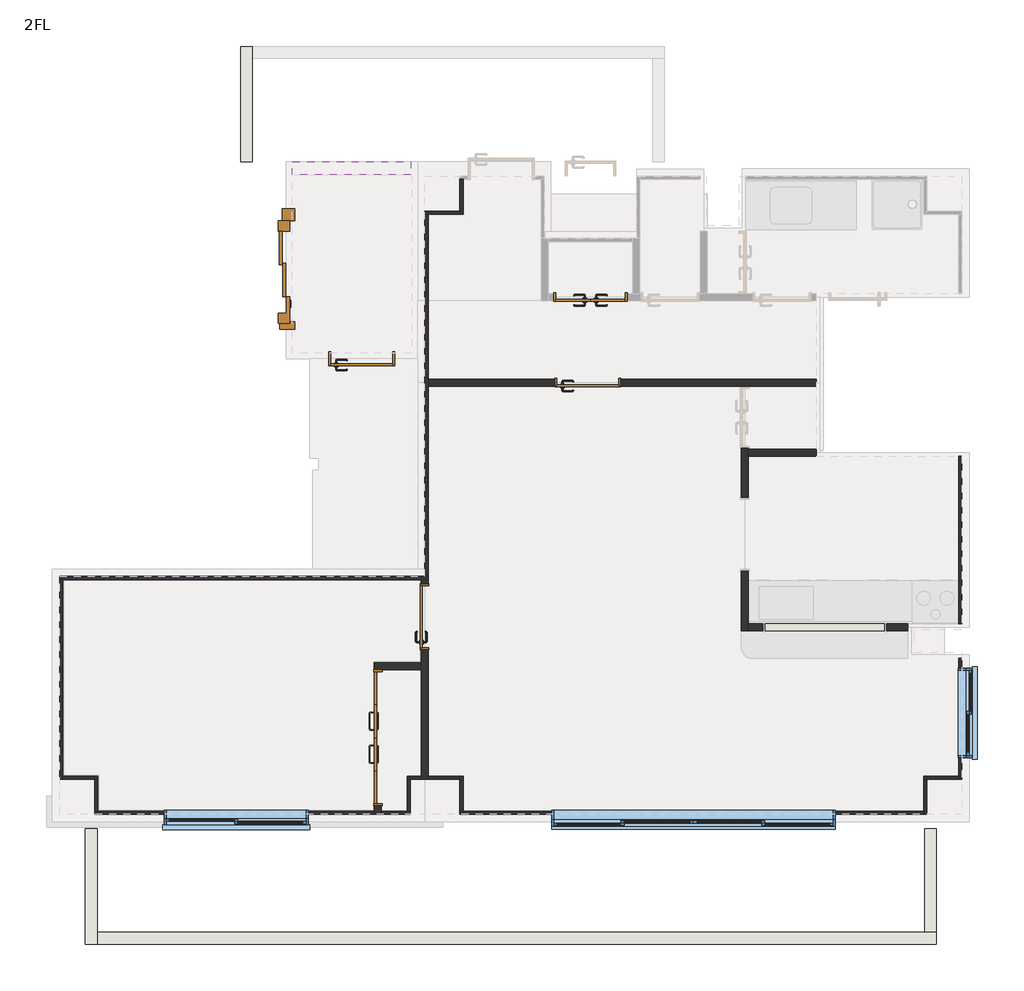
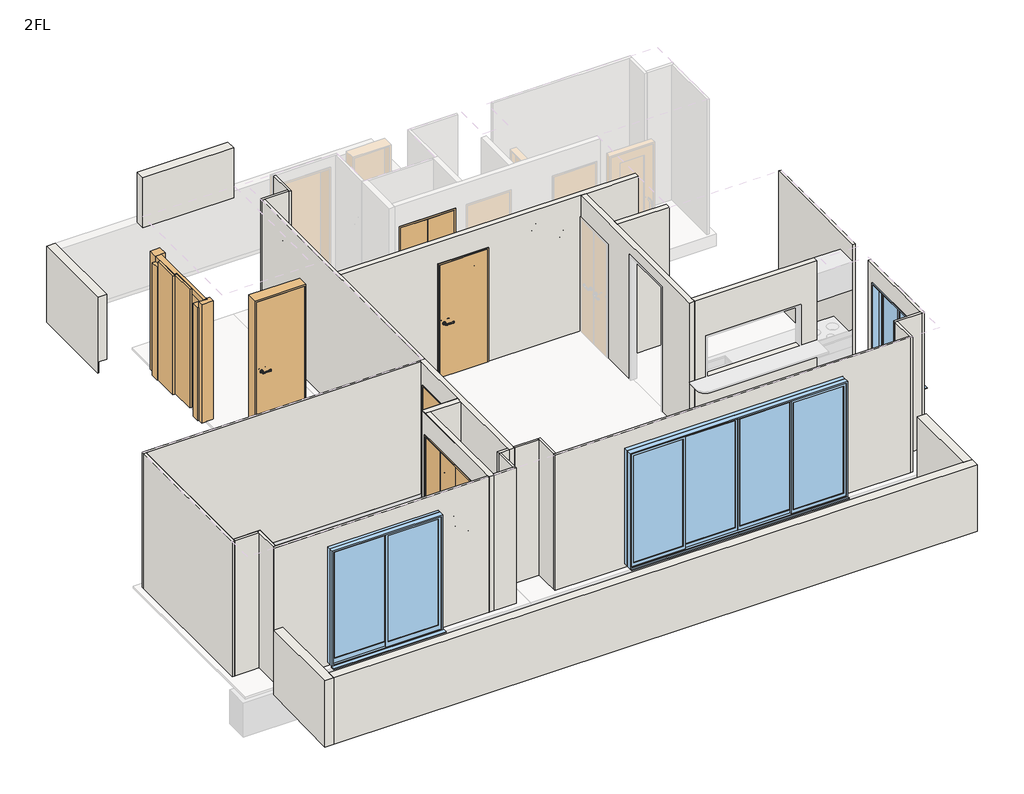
# One storey, part 1 of 2: 38 walls, 6 doors, 3 windows.
"""IFC4 building model written with IfcOpenShell, lengths in millimetres."""

from ifc_helpers import new_model, si_unit, frame, origin, place, context, project, spatial, polyline, outline, extrude, faceted_brep, transform, mapped, element, save
from components import door_6b3f1a68, w750h2000_bb28a540, w900h2000_3836acd8, w1700h2000_548ce087, w800h2000_55112f04, w800h2000_ceb0a9b1, w800h2200_4894828d, w1100h1200_8d7c9efa, w1800h2000_a859420f, w3600_h2000_fd93b6f9

model = new_model("IFC4")

# Units and contexts
model_context = context("Model", 3, world=origin())
ifc_project = project(units=[si_unit("LENGTHUNIT", "METRE", prefix="MILLI")], contexts=[model_context])

# Site, building, storey
site = spatial("IfcSite", under=ifc_project)
building = spatial("IfcBuilding", under=site)
storey = spatial("IfcBuildingStorey", under=building, Name="2FL", Elevation=3155.0)

# Doors
placement = place(None, origin())
door_shape = door_6b3f1a68(model_context)
element("IfcDoor", 1, ObjectType="エレベータ住宅用ドア - トランク付 : 9 人乗", at=placement, inside=storey, context=model_context, shape_type="MappedRepresentation", body=[
    mapped(door_shape, transform((-699.2658988, 2143.6001516, 3155.0), x_axis=(0.0, 1.0, 0.0), y_axis=(-1.0, 0.0, 0.0), z_axis=(0.0, 0.0, 1.0))),
])
w750h2000_shape = w750h2000_bb28a540(model_context)
w900h2000_shape = w900h2000_3836acd8(model_context)
element("IfcDoor", 2, ObjectType="両開き : W900H2000", at=placement, inside=storey, context=model_context, shape_type="MappedRepresentation", body=[
    mapped(w750h2000_shape, transform((3218.2341012, 1823.6001516, 3155.0), x_axis=(-1.0, 0.0, 0.0), y_axis=(0.0, -1.0, 0.0), z_axis=(0.0, 0.0, 1.0))),
    mapped(w900h2000_shape, transform((3218.2341012, 1823.6001516, 3155.0), x_axis=(-1.0, 0.0, 0.0), y_axis=(0.0, -1.0, 0.0), z_axis=(0.0, 0.0, 1.0))),
])
w1700h2000_shape = w1700h2000_548ce087(model_context)
element("IfcDoor", 3, ObjectType="木製折戸 : w1700h2000", at=placement, inside=storey, context=model_context, shape_type="MappedRepresentation", body=[
    mapped(w1700h2000_shape, transform((483.2341012, -3846.3998484, 3155.0), x_axis=(0.0, 1.0, 0.0), y_axis=(-1.0, 0.0, 0.0), z_axis=(0.0, 0.0, 1.0))),
])
w800h2000_shape = w800h2000_55112f04(model_context)
element("IfcDoor", 4, ObjectType="片開き : w800h2000", at=placement, inside=storey, context=model_context, shape_type="MappedRepresentation", body=[
    mapped(w800h2000_shape, transform((3183.2341012, 723.6001516, 3155.0), x_axis=(1.0, 0.0, 0.0), y_axis=(0.0, 1.0, 0.0), z_axis=(0.0, 0.0, 1.0))),
])
w800h2000_2_shape = w800h2000_ceb0a9b1(model_context)
element("IfcDoor", 5, ObjectType="片開き : w800h2000", at=placement, inside=storey, context=model_context, shape_type="MappedRepresentation", body=[
    mapped(w800h2000_2_shape, transform((1083.2341012, -2291.3998484, 3155.0), x_axis=(0.0, 1.0, 0.0), y_axis=(-1.0, 0.0, 0.0), z_axis=(0.0, 0.0, 1.0))),
])
w800h2200_shape = w800h2200_4894828d(model_context)
element("IfcDoor", 6, ObjectType="片開き : w800h2200", at=placement, inside=storey, context=model_context, shape_type="MappedRepresentation", body=[
    mapped(w800h2200_shape, transform((273.2341012, 1031.1001516, 3155.0), x_axis=(1.0, 0.0, 0.0), y_axis=(0.0, 1.0, 0.0), z_axis=(0.0, 0.0, 1.0))),
])

# Walls
element("IfcWall", 7, ObjectType="標準-12.5mm+65ｍｍ+12.5mm", at=placement, inside=storey, context=model_context, shape_type="Brep", body=[
    faceted_brep([(5248.2341012, -2471.3998484, 3155.0), (7298.2341012, -2471.3998484, 3155.0), (7298.2341012, -2471.3998484, 5555.0), (5248.2341012, -2471.3998484, 5555.0), (7033.2341012, -2471.3998484, 4880.0), (7033.2341012, -2471.3998484, 4155.0), (5433.2341012, -2471.3998484, 4155.0), (5433.2341012, -2471.3998484, 4880.0), (7298.2341012, -2381.3998484, 3155.0), (5248.2341012, -2381.3998484, 3155.0), (5248.2341012, -2381.3998484, 5555.0), (7298.2341012, -2381.3998484, 5555.0), (7033.2341012, -2381.3998484, 4155.0), (7033.2341012, -2381.3998484, 4880.0), (5433.2341012, -2381.3998484, 4880.0), (5433.2341012, -2381.3998484, 4155.0), (7298.2341012, -2458.8998484, 5555.0)], [[[0, 1, 2, 3], [4, 5, 6, 7]], [[8, 9, 10, 11], [12, 13, 14, 15]], [[1, 0, 9, 8]], [[3, 2, 16, 11, 10]], [[0, 3, 10, 9]], [[4, 13, 12, 5]], [[5, 12, 15, 6]], [[6, 15, 14, 7]], [[13, 4, 7, 14]], [[2, 1, 8, 11, 16]]]),
])
element("IfcWall", 8, ObjectType="標準-12.5mm+65ｍｍ+12.5mm", at=placement, inside=storey, context=model_context, shape_type="Brep", body=[
    faceted_brep([(1128.2341012, -1771.3998484, 3155.0), (1128.2341012, -1771.3998484, 5555.0), (1128.2341012, -4341.3998484, 5555.0), (1128.2341012, -4381.3998484, 5555.0), (1128.2341012, -4381.3998484, 3155.0), (1128.2341012, -4341.3998484, 3155.0), (1128.2341012, -2716.3998484, 3155.0), (1128.2341012, -2716.3998484, 5180.0), (1128.2341012, -1866.3998484, 5180.0), (1128.2341012, -1866.3998484, 3155.0), (1038.2341012, -1771.3998484, 5555.0), (1038.2341012, -1771.3998484, 3155.0), (1038.2341012, -1811.3998484, 3155.0), (1038.2341012, -1866.3998484, 3155.0), (1038.2341012, -1866.3998484, 3215.0), (1038.2341012, -1866.3998484, 5180.0), (1038.2341012, -2716.3998484, 5180.0), (1038.2341012, -2716.3998484, 3215.0), (1038.2341012, -2716.3998484, 3155.0), (1038.2341012, -2881.3998484, 3155.0), (1038.2341012, -2971.3998484, 3155.0), (1038.2341012, -4341.3998484, 3155.0), (1038.2341012, -4381.3998484, 3155.0), (1038.2341012, -4381.3998484, 5555.0), (1038.2341012, -4341.3998484, 5555.0), (1038.2341012, -2971.3998484, 5555.0), (1038.2341012, -2881.3998484, 5555.0), (1038.2341012, -1812.1998484, 5555.0), (1038.2341012, -1811.3998484, 5555.0), (1088.2341012, -1771.3998484, 3155.0), (1115.7341012, -1771.3998484, 3155.0), (1088.2341012, -1771.3998484, 5555.0)], [[[0, 1, 2, 3, 4, 5, 6, 7, 8, 9]], [[10, 11, 12, 13, 14, 15, 16, 17, 18, 19, 20, 21, 22, 23, 24, 25, 26, 27, 28]], [[4, 22, 21, 20, 19, 18, 6, 5]], [[11, 29, 30, 0, 9, 13, 12]], [[1, 0, 30, 29, 11, 10, 31]], [[3, 2, 1, 31, 10, 28, 27, 26, 25, 24, 23]], [[4, 3, 23, 22]], [[16, 7, 6, 18, 17]], [[7, 16, 15, 8]], [[8, 15, 14, 13, 9]]]),
])
element("IfcWall", 9, ObjectType="標準-12.5mm+65ｍｍ+12.5mm", at=placement, inside=storey, context=model_context, shape_type="Brep", body=[
    faceted_brep([(1038.2341012, -2881.3998484, 3155.0), (438.2341012, -2881.3998484, 3155.0), (438.2341012, -2881.3998484, 3215.0), (438.2341012, -2881.3998484, 5555.0), (1038.2341012, -2881.3998484, 5555.0), (1038.2341012, -2881.3998484, 3215.0), (438.2341012, -2971.3998484, 3155.0), (1038.2341012, -2971.3998484, 3155.0), (1038.2341012, -2971.3998484, 5555.0), (528.2341012, -2971.3998484, 5555.0), (438.2341012, -2971.3998484, 5555.0), (438.2341012, -2971.3998484, 5180.0), (438.2341012, -2971.3998484, 3215.0)], [[[0, 1, 2, 3, 4, 5]], [[6, 7, 8, 9, 10, 11, 12]], [[1, 0, 7, 6]], [[4, 3, 10, 9, 8]], [[4, 8, 7, 0, 5]], [[1, 6, 12, 11, 10, 3, 2]]]),
])
element("IfcWall", 10, ObjectType="標準-12.5mm+65ｍｍ+12.5mm", at=placement, inside=storey, context=model_context, shape_type="Brep", body=[
    faceted_brep([(438.2341012, -4831.3998484, 3155.0), (438.2341012, -4831.3998484, 5555.0), (438.2341012, -4791.3998484, 5555.0), (438.2341012, -2971.3998484, 5555.0), (438.2341012, -2971.3998484, 5180.0), (438.2341012, -4721.3998484, 5180.0), (438.2341012, -4721.3998484, 3215.0), (438.2341012, -4721.3998484, 3155.0), (438.2341012, -4791.3998484, 3155.0), (528.2341012, -4831.3998484, 5555.0), (528.2341012, -4831.3998484, 3155.0), (528.2341012, -4791.3998484, 3155.0), (528.2341012, -4721.3998484, 3155.0), (528.2341012, -4721.3998484, 5180.0), (528.2341012, -2971.3998484, 5180.0), (528.2341012, -2971.3998484, 5555.0), (528.2341012, -4791.3998484, 5555.0)], [[[0, 1, 2, 3, 4, 5, 6, 7, 8]], [[9, 10, 11, 12, 13, 14, 15, 16]], [[10, 0, 8, 7, 12, 11]], [[1, 0, 10, 9]], [[3, 2, 1, 9, 16, 15]], [[3, 15, 14, 4]], [[5, 13, 12, 7, 6]], [[13, 5, 4, 14]]]),
])
element("IfcWall", 11, ObjectType="標準-12.5mm+65ｍｍ+12.5mm", at=placement, inside=storey, context=model_context, shape_type="SweptSolid", body=[
    extrude(outline(polyline([(6123.2341012, -221.3998484), (5248.2341012, -221.3998484), (5248.2341012, -131.3998484), (6123.2341012, -131.3998484), (6123.2341012, -221.3998484)])), frame((0.0, 0.0, 3155.0), z_axis=(0.0, 0.0, 1.0), x_axis=(1.0, 0.0, 0.0)), (0.0, 0.0, 1.0), 2400.0),
])
element("IfcWall", 12, ObjectType="標準-12.5mm+65ｍｍ+12.5mm", at=placement, inside=storey, context=model_context, shape_type="Brep", body=[
    faceted_brep([(6123.2341012, 768.6001516, 5555.0), (6123.2341012, 768.6001516, 3155.0), (3608.2341012, 768.6001516, 3155.0), (3608.2341012, 768.6001516, 5180.0), (2758.2341012, 768.6001516, 5180.0), (2758.2341012, 768.6001516, 3155.0), (1128.2341012, 768.6001516, 3155.0), (1128.2341012, 768.6001516, 5555.0), (6123.2341012, 678.6001516, 3155.0), (6123.2341012, 678.6001516, 5555.0), (5248.2341012, 678.6001516, 5555.0), (5158.2341012, 678.6001516, 5555.0), (1128.2341012, 678.6001516, 5555.0), (1128.2341012, 678.6001516, 3155.0), (2758.2341012, 678.6001516, 3155.0), (2758.2341012, 678.6001516, 5180.0), (3608.2341012, 678.6001516, 5180.0), (3608.2341012, 678.6001516, 3155.0), (6123.2341012, 723.6001516, 3155.0)], [[[0, 1, 2, 3, 4, 5, 6, 7]], [[8, 9, 10, 11, 12, 13, 14, 15, 16, 17]], [[1, 18, 8, 17, 2]], [[5, 14, 13, 6]], [[9, 0, 7, 12, 11, 10]], [[1, 0, 9, 8, 18]], [[17, 16, 3, 2]], [[15, 14, 5, 4]], [[16, 15, 4, 3]], [[7, 6, 13, 12]]]),
])
element("IfcWall", 13, ObjectType="標準-12.5mm+65ｍｍ+12.5mm", at=placement, inside=storey, context=model_context, shape_type="Brep", body=[
    faceted_brep([(5158.2341012, -121.3998484, 3155.0), (5158.2341012, -751.3998484, 3155.0), (5158.2341012, -751.3998484, 5380.0), (5158.2341012, -1701.3998484, 5380.0), (5158.2341012, -1701.3998484, 3155.0), (5158.2341012, -2471.3998484, 3155.0), (5158.2341012, -2471.3998484, 5555.0), (5158.2341012, 678.6001516, 5555.0), (5158.2341012, 678.6001516, 5180.0), (5158.2341012, -121.3998484, 5180.0), (5248.2341012, -751.3998484, 5380.0), (5248.2341012, -751.3998484, 3155.0), (5248.2341012, -221.3998484, 3155.0), (5248.2341012, -131.3998484, 3155.0), (5248.2341012, -121.3998484, 3155.0), (5248.2341012, -121.3998484, 5180.0), (5248.2341012, 678.6001516, 5180.0), (5248.2341012, 678.6001516, 5555.0), (5248.2341012, -131.3998484, 5555.0), (5248.2341012, -221.3998484, 5555.0), (5248.2341012, -2381.3998484, 5555.0), (5248.2341012, -2471.3998484, 5555.0), (5248.2341012, -2471.3998484, 3155.0), (5248.2341012, -2381.3998484, 3155.0), (5248.2341012, -1701.3998484, 3155.0), (5248.2341012, -1701.3998484, 5380.0)], [[[0, 1, 2, 3, 4, 5, 6, 7, 8, 9]], [[10, 11, 12, 13, 14, 15, 16, 17, 18, 19, 20, 21, 22, 23, 24, 25]], [[24, 23, 22, 5, 4]], [[14, 13, 12, 11, 1, 0]], [[7, 6, 21, 20, 19, 18, 17]], [[6, 5, 22, 21]], [[7, 17, 16, 8]], [[4, 3, 25, 24]], [[2, 1, 11, 10]], [[3, 2, 10, 25]], [[9, 15, 14, 0]], [[15, 9, 8, 16]]]),
])
element("IfcWall", 14, ObjectType="標準-120mm+15mm+15mm", at=placement, inside=storey, context=model_context, shape_type="Brep", body=[
    faceted_brep([(-1281.7658988, 5048.6001516, 2910.0), (-1281.7658988, 3563.6001516, 2910.0), (-1281.7658988, 3563.6001516, 4255.0), (-1281.7658988, 5048.6001516, 4255.0), (-1131.7658988, 5048.6001516, 4255.0), (-1131.7658988, 4898.6001516, 4255.0), (-1131.7658988, 3563.6001516, 4255.0), (-1131.7658988, 3563.6001516, 3105.0), (-1131.7658988, 4898.6001516, 3077.755102), (-1131.7658988, 5033.6001516, 3075.0), (-1131.7658988, 5033.6001516, 2910.0), (-1131.7658988, 5048.6001516, 2910.0), (-1266.7658988, 5033.6001516, 2910.0), (-1266.7658988, 3563.6001516, 2910.0), (-1266.7658988, 3563.6001516, 3105.0), (-1266.7658988, 5033.6001516, 3075.0)], [[[0, 1, 2, 3]], [[4, 5, 6, 7, 8, 9, 10, 11]], [[1, 0, 11, 10, 12, 13]], [[3, 2, 6, 5, 4]], [[0, 3, 4, 11]], [[6, 2, 1, 13, 14, 7]], [[15, 14, 13, 12]], [[15, 12, 10, 9]], [[14, 15, 9, 8, 7]]]),
])
element("IfcWall", 15, ObjectType="標準-120mm+15mm+15mm", at=placement, inside=storey, context=model_context, shape_type="Brep", body=[
    faceted_brep([(-3281.7658988, -6501.3998484, 4255.0), (-3281.7658988, -5016.3998484, 4255.0), (-3281.7658988, -5016.3998484, 3105.0), (-3281.7658988, -6501.3998484, 3075.0), (-3131.7658988, -5016.3998484, 4255.0), (-3131.7658988, -6351.3998484, 4255.0), (-3131.7658988, -6501.3998484, 4255.0), (-3131.7658988, -6501.3998484, 3075.0), (-3131.7658988, -6351.3998484, 3078.030303), (-3131.7658988, -5016.3998484, 3105.0)], [[[0, 1, 2, 3]], [[4, 5, 6, 7, 8, 9]], [[1, 0, 6, 5, 4]], [[6, 0, 3, 7]], [[3, 2, 9, 8, 7]], [[1, 4, 9, 2]]]),
])
element("IfcWall", 16, ObjectType="標準-120mm+15mm+15mm", at=placement, inside=storey, context=model_context, shape_type="Brep", body=[
    faceted_brep([(7668.2341012, -6501.3998484, 4255.0), (-3131.7658988, -6501.3998484, 4255.0), (-3131.7658988, -6501.3998484, 3075.0), (7668.2341012, -6501.3998484, 3075.0), (-3131.7658988, -6351.3998484, 4255.0), (7518.2341012, -6351.3998484, 4255.0), (7668.2341012, -6351.3998484, 4255.0), (7668.2341012, -6351.3998484, 3078.030303), (7518.2341012, -6351.3998484, 3078.030303), (-3131.7658988, -6351.3998484, 3078.030303)], [[[0, 1, 2, 3]], [[4, 5, 6, 7, 8, 9]], [[1, 0, 6, 5, 4]], [[1, 4, 9, 2]], [[6, 0, 3, 7]], [[3, 2, 9, 8, 7]]]),
])
element("IfcWall", 17, ObjectType="標準-120mm+15mm+15mm", at=placement, inside=storey, context=model_context, shape_type="Brep", body=[
    faceted_brep([(7668.2341012, -5016.3998484, 4255.0), (7668.2341012, -6351.3998484, 4255.0), (7668.2341012, -6351.3998484, 3078.030303), (7668.2341012, -5016.3998484, 3105.0), (7518.2341012, -6351.3998484, 4255.0), (7518.2341012, -5016.3998484, 4255.0), (7518.2341012, -5016.3998484, 3120.0), (7518.2341012, -5016.3998484, 3105.0), (7518.2341012, -6351.3998484, 3078.030303)], [[[0, 1, 2, 3]], [[4, 5, 6, 7, 8]], [[1, 0, 5, 4]], [[1, 4, 8, 2]], [[5, 0, 3, 7, 6]], [[3, 2, 8, 7]]]),
])
element("IfcWall", 18, ObjectType="外壁-150mm+15mm", at=placement, inside=storey, context=model_context, shape_type="SweptSolid", body=[
    extrude(outline(polyline([(903.2341012, 3398.6001516), (-616.7658988, 3398.6001516), (-616.7658988, 3563.6001516), (903.2341012, 3563.6001516), (903.2341012, 3398.6001516)])), frame((0.0, 0.0, 5355.0), z_axis=(0.0, 0.0, 1.0), x_axis=(1.0, 0.0, 0.0)), (0.0, 0.0, 1.0), 885.0),
])
element("IfcWall", 19, ObjectType="内壁-27.5mm+12.5", at=placement, inside=storey, context=model_context, shape_type="Brep", body=[
    faceted_brep([(-3611.7658988, -1811.3998484, 3155.0), (-3571.7658988, -1811.3998484, 3155.0), (1038.2341012, -1811.3998484, 3155.0), (1038.2341012, -1811.3998484, 5555.0), (-3571.7658988, -1811.3998484, 5555.0), (-3611.7658988, -1811.3998484, 5555.0), (-3611.7658988, -1771.3998484, 3155.0), (-3611.7658988, -1771.3998484, 5555.0), (1038.2341012, -1771.3998484, 5555.0), (1038.2341012, -1771.3998484, 3155.0), (-3611.7658988, -1798.8998484, 3155.0), (1038.2341012, -1798.8998484, 3155.0)], [[[0, 1, 2, 3, 4, 5]], [[6, 7, 8, 9]], [[5, 4, 3, 8, 7]], [[2, 1, 0, 10, 11]], [[3, 2, 11, 9, 8]], [[0, 5, 7, 6, 10]], [[10, 6, 9, 11]]]),
])
element("IfcWall", 20, ObjectType="内壁-27.5mm+12.5", at=placement, inside=storey, context=model_context, shape_type="Brep", body=[
    faceted_brep([(-3571.7658988, -4381.3998484, 3155.0), (-3571.7658988, -4341.3998484, 3155.0), (-3571.7658988, -1811.3998484, 3155.0), (-3571.7658988, -1811.3998484, 5555.0), (-3571.7658988, -4341.3998484, 5555.0), (-3571.7658988, -4381.3998484, 5555.0), (-3611.7658988, -4381.3998484, 3155.0), (-3611.7658988, -4381.3998484, 5555.0), (-3611.7658988, -1811.3998484, 5555.0), (-3611.7658988, -1811.3998484, 3155.0), (-3584.2658988, -4381.3998484, 3155.0), (-3584.2658988, -1811.3998484, 3155.0)], [[[0, 1, 2, 3, 4, 5]], [[6, 7, 8, 9]], [[5, 4, 3, 8, 7]], [[2, 1, 0, 10, 11]], [[3, 2, 11, 9, 8]], [[0, 5, 7, 6, 10]], [[10, 6, 9, 11]]]),
])
element("IfcWall", 21, ObjectType="内壁-27.5mm+12.5", at=placement, inside=storey, context=model_context, shape_type="Brep", body=[
    faceted_brep([(438.2341012, -4791.3998484, 3155.0), (-3121.7658988, -4791.3998484, 3155.0), (-3161.7658988, -4791.3998484, 3155.0), (-3161.7658988, -4791.3998484, 5555.0), (-3121.7658988, -4791.3998484, 5555.0), (437.4341012, -4791.3998484, 5555.0), (438.2341012, -4791.3998484, 5555.0), (-2266.7658988, -4791.3998484, 5265.0), (-2266.7658988, -4791.3998484, 3215.0), (-416.7658988, -4791.3998484, 3215.0), (-416.7658988, -4791.3998484, 5265.0), (438.2341012, -4831.3998484, 3155.0), (438.2341012, -4831.3998484, 5555.0), (-3161.7658988, -4831.3998484, 5555.0), (-3161.7658988, -4831.3998484, 3155.0), (-2266.7658988, -4831.3998484, 5265.0), (-416.7658988, -4831.3998484, 5265.0), (-416.7658988, -4831.3998484, 3215.0), (-2266.7658988, -4831.3998484, 3215.0), (438.2341012, -4803.8998484, 3155.0), (-3161.7658988, -4803.8998484, 3155.0)], [[[0, 1, 2, 3, 4, 5, 6], [7, 8, 9, 10]], [[11, 12, 13, 14], [15, 16, 17, 18]], [[6, 5, 4, 3, 13, 12]], [[2, 1, 0, 19, 20]], [[0, 6, 12, 11, 19]], [[19, 11, 14, 20]], [[8, 7, 15, 18]], [[9, 8, 18, 17]], [[10, 9, 17, 16]], [[7, 10, 16, 15]], [[3, 2, 20, 14, 13]]]),
])
element("IfcWall", 22, ObjectType="内壁-27.5mm+12.5", at=placement, inside=storey, context=model_context, shape_type="Brep", body=[
    faceted_brep([(898.2341012, -4791.3998484, 3155.0), (858.2341012, -4791.3998484, 3155.0), (528.2341012, -4791.3998484, 3155.0), (528.2341012, -4791.3998484, 5555.0), (858.2341012, -4791.3998484, 5555.0), (898.2341012, -4791.3998484, 5555.0), (898.2341012, -4831.3998484, 3155.0), (898.2341012, -4831.3998484, 5555.0), (528.2341012, -4831.3998484, 5555.0), (528.2341012, -4831.3998484, 3155.0), (898.2341012, -4803.8998484, 3155.0), (528.2341012, -4803.8998484, 3155.0)], [[[0, 1, 2, 3, 4, 5]], [[6, 7, 8, 9]], [[5, 4, 3, 8, 7]], [[2, 1, 0, 10, 11]], [[3, 2, 11, 9, 8]], [[0, 5, 7, 6, 10]], [[10, 6, 9, 11]]]),
])
element("IfcWall", 23, ObjectType="内壁-27.5mm+12.5", at=placement, inside=storey, context=model_context, shape_type="Brep", body=[
    faceted_brep([(1038.2341012, -4341.3998484, 3155.0), (858.2341012, -4341.3998484, 3155.0), (858.2341012, -4341.3998484, 5555.0), (1038.2341012, -4341.3998484, 5555.0), (1038.2341012, -4381.3998484, 3155.0), (1038.2341012, -4381.3998484, 5555.0), (898.2341012, -4381.3998484, 5555.0), (858.2341012, -4381.3998484, 5555.0), (858.2341012, -4381.3998484, 3155.0), (898.2341012, -4381.3998484, 3155.0), (1038.2341012, -4353.8998484, 3155.0), (858.2341012, -4353.8998484, 3155.0)], [[[0, 1, 2, 3]], [[4, 5, 6, 7, 8, 9]], [[3, 2, 7, 6, 5]], [[1, 0, 10, 11]], [[0, 3, 5, 4, 10]], [[10, 4, 9, 8, 11]], [[2, 1, 11, 8, 7]]]),
])
element("IfcWall", 24, ObjectType="内壁-27.5mm+12.5", at=placement, inside=storey, context=model_context, shape_type="SweptSolid", body=[
    extrude(outline(polyline([(5555.0, 858.2341012), (3155.0, 858.2341012), (3155.0, 870.7341012), (3155.0, 898.2341012), (5555.0, 898.2341012), (5555.0, 858.2341012)])), frame((0.0, -4791.3998484, 0.0), z_axis=(0.0, 1.0, 0.0), x_axis=(0.0, 0.0, 1.0)), (0.0, 0.0, 1.0), 410.0),
])
element("IfcWall", 25, ObjectType="内壁-27.5mm+12.5", at=placement, inside=storey, context=model_context, shape_type="Brep", body=[
    faceted_brep([(1578.2341012, 2888.6001516, 3155.0), (1578.2341012, 3338.6001516, 3155.0), (1578.2341012, 3338.6001516, 5555.0), (1578.2341012, 2888.6001516, 5555.0), (1538.2341012, 2888.6001516, 3155.0), (1538.2341012, 2888.6001516, 5555.0), (1538.2341012, 2928.6001516, 5555.0), (1538.2341012, 3338.6001516, 5555.0), (1538.2341012, 3338.6001516, 3155.0), (1538.2341012, 2928.6001516, 3155.0), (1565.7341012, 2888.6001516, 3155.0), (1565.7341012, 3338.6001516, 3155.0)], [[[0, 1, 2, 3]], [[4, 5, 6, 7, 8, 9]], [[3, 2, 7, 6, 5]], [[1, 0, 10, 11]], [[2, 1, 11, 8, 7]], [[0, 3, 5, 4, 10]], [[10, 4, 9, 8, 11]]]),
])
element("IfcWall", 26, ObjectType="内壁-27.5mm+12.5", at=placement, inside=storey, context=model_context, shape_type="Brep", body=[
    faceted_brep([(1088.2341012, 2888.6001516, 3155.0), (1128.2341012, 2888.6001516, 3155.0), (1538.2341012, 2888.6001516, 3155.0), (1538.2341012, 2888.6001516, 5555.0), (1128.2341012, 2888.6001516, 5555.0), (1088.2341012, 2888.6001516, 5555.0), (1088.2341012, 2928.6001516, 3155.0), (1088.2341012, 2928.6001516, 5555.0), (1538.2341012, 2928.6001516, 5555.0), (1538.2341012, 2928.6001516, 3155.0), (1088.2341012, 2901.1001516, 3155.0), (1538.2341012, 2901.1001516, 3155.0)], [[[0, 1, 2, 3, 4, 5]], [[6, 7, 8, 9]], [[5, 4, 3, 8, 7]], [[2, 1, 0, 10, 11]], [[3, 2, 11, 9, 8]], [[0, 5, 7, 6, 10]], [[10, 6, 9, 11]]]),
])
element("IfcWall", 27, ObjectType="内壁-27.5mm+12.5", at=placement, inside=storey, context=model_context, shape_type="Brep", body=[
    faceted_brep([(1128.2341012, -1771.3998484, 3155.0), (1128.2341012, 678.6001516, 3155.0), (1128.2341012, 768.6001516, 3155.0), (1128.2341012, 2888.6001516, 3155.0), (1128.2341012, 2888.6001516, 5555.0), (1128.2341012, 768.6001516, 5555.0), (1128.2341012, 678.6001516, 5555.0), (1128.2341012, -1771.3998484, 5555.0), (1088.2341012, -1771.3998484, 3155.0), (1088.2341012, -1771.3998484, 5555.0), (1088.2341012, 2888.6001516, 5555.0), (1088.2341012, 2888.6001516, 3155.0), (1115.7341012, -1771.3998484, 3155.0), (1115.7341012, 2888.6001516, 3155.0)], [[[0, 1, 2, 3, 4, 5, 6, 7]], [[8, 9, 10, 11]], [[7, 6, 5, 4, 10, 9]], [[0, 7, 9, 8, 12]], [[3, 2, 1, 0, 12, 13]], [[12, 8, 11, 13]], [[4, 3, 13, 11, 10]]]),
])
element("IfcWall", 28, ObjectType="内壁-27.5mm+12.5", at=placement, inside=storey, context=model_context, shape_type="SweptSolid", body=[
    extrude(outline(polyline([(5555.0, 7958.2341012), (3155.0, 7958.2341012), (3155.0, 7970.7341012), (3155.0, 7998.2341012), (5555.0, 7998.2341012), (5555.0, 7958.2341012)])), frame((0.0, -2381.3998484, 0.0), z_axis=(0.0, 1.0, 0.0), x_axis=(0.0, 0.0, 1.0)), (0.0, 0.0, 1.0), 2160.0),
])
element("IfcWall", 29, ObjectType="内壁-27.5mm+12.5", at=placement, inside=storey, context=model_context, shape_type="Brep", body=[
    faceted_brep([(7958.2341012, -2826.3998484, 3155.0), (7958.2341012, -4341.3998484, 3155.0), (7958.2341012, -4381.3998484, 3155.0), (7958.2341012, -4381.3998484, 5555.0), (7958.2341012, -4341.3998484, 5555.0), (7958.2341012, -2826.3998484, 5555.0), (7958.2341012, -4101.3998484, 5230.0), (7958.2341012, -4101.3998484, 3980.0), (7958.2341012, -2951.3998484, 3980.0), (7958.2341012, -2951.3998484, 5230.0), (7998.2341012, -2826.3998484, 3155.0), (7998.2341012, -2826.3998484, 5555.0), (7998.2341012, -4381.3998484, 5555.0), (7998.2341012, -4381.3998484, 3155.0), (7998.2341012, -4101.3998484, 5230.0), (7998.2341012, -2951.3998484, 5230.0), (7998.2341012, -2951.3998484, 3980.0), (7998.2341012, -4101.3998484, 3980.0), (7970.7341012, -2826.3998484, 3155.0), (7970.7341012, -4381.3998484, 3155.0)], [[[0, 1, 2, 3, 4, 5], [6, 7, 8, 9]], [[10, 11, 12, 13], [14, 15, 16, 17]], [[5, 4, 3, 12, 11]], [[2, 1, 0, 18, 19]], [[0, 5, 11, 10, 18]], [[18, 10, 13, 19]], [[3, 2, 19, 13, 12]], [[7, 6, 14, 17]], [[8, 7, 17, 16]], [[9, 8, 16, 15]], [[6, 9, 15, 14]]]),
])
element("IfcWall", 30, ObjectType="内壁-27.5mm+12.5", at=placement, inside=storey, context=model_context, shape_type="Brep", body=[
    faceted_brep([(7958.2341012, -4341.3998484, 3155.0), (7508.2341012, -4341.3998484, 3155.0), (7508.2341012, -4341.3998484, 5555.0), (7958.2341012, -4341.3998484, 5555.0), (7958.2341012, -4381.3998484, 3155.0), (7958.2341012, -4381.3998484, 5555.0), (7548.2341012, -4381.3998484, 5555.0), (7508.2341012, -4381.3998484, 5555.0), (7508.2341012, -4381.3998484, 3155.0), (7548.2341012, -4381.3998484, 3155.0), (7958.2341012, -4353.8998484, 3155.0), (7508.2341012, -4353.8998484, 3155.0)], [[[0, 1, 2, 3]], [[4, 5, 6, 7, 8, 9]], [[3, 2, 7, 6, 5]], [[1, 0, 10, 11]], [[0, 3, 5, 4, 10]], [[10, 4, 9, 8, 11]], [[2, 1, 11, 8, 7]]]),
])
element("IfcWall", 31, ObjectType="内壁-27.5mm+12.5", at=placement, inside=storey, context=model_context, shape_type="Brep", body=[
    faceted_brep([(7508.2341012, -4381.3998484, 3155.0), (7508.2341012, -4791.3998484, 3155.0), (7508.2341012, -4831.3998484, 3155.0), (7508.2341012, -4831.3998484, 5555.0), (7508.2341012, -4791.3998484, 5555.0), (7508.2341012, -4381.3998484, 5555.0), (7548.2341012, -4381.3998484, 3155.0), (7548.2341012, -4381.3998484, 5555.0), (7548.2341012, -4831.3998484, 5555.0), (7548.2341012, -4831.3998484, 3155.0), (7520.7341012, -4381.3998484, 3155.0), (7520.7341012, -4831.3998484, 3155.0)], [[[0, 1, 2, 3, 4, 5]], [[6, 7, 8, 9]], [[5, 4, 3, 8, 7]], [[2, 1, 0, 10, 11]], [[0, 5, 7, 6, 10]], [[10, 6, 9, 11]], [[3, 2, 11, 9, 8]]]),
])
element("IfcWall", 32, ObjectType="内壁-27.5mm+12.5", at=placement, inside=storey, context=model_context, shape_type="Brep", body=[
    faceted_brep([(7508.2341012, -4791.3998484, 3155.0), (1578.2341012, -4791.3998484, 3155.0), (1538.2341012, -4791.3998484, 3155.0), (1538.2341012, -4791.3998484, 5555.0), (1578.2341012, -4791.3998484, 5555.0), (7508.2341012, -4791.3998484, 5555.0), (6368.2341012, -4791.3998484, 3215.0), (6368.2341012, -4791.3998484, 5265.0), (2718.2341012, -4791.3998484, 5265.0), (2718.2341012, -4791.3998484, 3215.0), (7508.2341012, -4831.3998484, 3155.0), (7508.2341012, -4831.3998484, 5555.0), (1538.2341012, -4831.3998484, 5555.0), (1538.2341012, -4831.3998484, 3155.0), (6368.2341012, -4831.3998484, 3215.0), (2718.2341012, -4831.3998484, 3215.0), (2718.2341012, -4831.3998484, 5265.0), (6368.2341012, -4831.3998484, 5265.0), (7508.2341012, -4803.8998484, 3155.0), (1538.2341012, -4803.8998484, 3155.0)], [[[0, 1, 2, 3, 4, 5], [6, 7, 8, 9]], [[10, 11, 12, 13], [14, 15, 16, 17]], [[5, 4, 3, 12, 11]], [[2, 1, 0, 18, 19]], [[0, 5, 11, 10, 18]], [[18, 10, 13, 19]], [[3, 2, 19, 13, 12]], [[7, 6, 14, 17]], [[8, 7, 17, 16]], [[9, 8, 16, 15]], [[6, 9, 15, 14]]]),
])
element("IfcWall", 33, ObjectType="内壁-27.5mm+12.5", at=placement, inside=storey, context=model_context, shape_type="Brep", body=[
    faceted_brep([(1578.2341012, -4791.3998484, 3155.0), (1578.2341012, -4341.3998484, 3155.0), (1578.2341012, -4341.3998484, 5555.0), (1578.2341012, -4791.3998484, 5555.0), (1538.2341012, -4791.3998484, 3155.0), (1538.2341012, -4791.3998484, 5555.0), (1538.2341012, -4381.3998484, 5555.0), (1538.2341012, -4341.3998484, 5555.0), (1538.2341012, -4341.3998484, 3155.0), (1538.2341012, -4381.3998484, 3155.0), (1565.7341012, -4791.3998484, 3155.0), (1565.7341012, -4341.3998484, 3155.0)], [[[0, 1, 2, 3]], [[4, 5, 6, 7, 8, 9]], [[3, 2, 7, 6, 5]], [[1, 0, 10, 11]], [[0, 3, 5, 4, 10]], [[10, 4, 9, 8, 11]], [[2, 1, 11, 8, 7]]]),
])
element("IfcWall", 34, ObjectType="内壁-27.5mm+12.5", at=placement, inside=storey, context=model_context, shape_type="SweptSolid", body=[
    extrude(outline(polyline([(-4341.3998484, 5555.0), (-4341.3998484, 3155.0), (-4353.8998484, 3155.0), (-4381.3998484, 3155.0), (-4381.3998484, 5555.0), (-4341.3998484, 5555.0)])), frame((1128.2341012, 0.0, 0.0), z_axis=(1.0, 0.0, 0.0), x_axis=(0.0, 1.0, 0.0)), (0.0, 0.0, 1.0), 410.0),
])
element("IfcWall", 35, ObjectType="内壁-27.5mm+12.5", at=placement, inside=storey, context=model_context, shape_type="Brep", body=[
    faceted_brep([(-3121.7658988, -4791.3998484, 3155.0), (-3121.7658988, -4341.3998484, 3155.0), (-3121.7658988, -4341.3998484, 3215.0), (-3121.7658988, -4341.3998484, 5555.0), (-3121.7658988, -4791.3998484, 5555.0), (-3121.7658988, -4791.3998484, 3215.0), (-3161.7658988, -4791.3998484, 5555.0), (-3161.7658988, -4381.3998484, 5555.0), (-3161.7658988, -4341.3998484, 5555.0), (-3161.7658988, -4341.3998484, 3215.0), (-3161.7658988, -4341.3998484, 3155.0), (-3161.7658988, -4381.3998484, 3155.0), (-3161.7658988, -4791.3998484, 3155.0), (-3134.2658988, -4791.3998484, 3155.0), (-3134.2658988, -4341.3998484, 3155.0)], [[[0, 1, 2, 3, 4, 5]], [[6, 7, 8, 9, 10, 11, 12]], [[4, 3, 8, 7, 6]], [[1, 0, 13, 14]], [[8, 3, 2, 1, 14, 10, 9]], [[4, 6, 12, 13, 0, 5]], [[12, 11, 10, 14, 13]]]),
])
element("IfcWall", 36, ObjectType="内壁-27.5mm+12.5", at=placement, inside=storey, context=model_context, shape_type="Brep", body=[
    faceted_brep([(-3161.7658988, -4341.3998484, 3155.0), (-3571.7658988, -4341.3998484, 3155.0), (-3571.7658988, -4341.3998484, 3215.0), (-3571.7658988, -4341.3998484, 5555.0), (-3161.7658988, -4341.3998484, 5555.0), (-3161.7658988, -4341.3998484, 3215.0), (-3161.7658988, -4381.3998484, 5555.0), (-3571.7658988, -4381.3998484, 5555.0), (-3571.7658988, -4381.3998484, 3155.0), (-3161.7658988, -4381.3998484, 3155.0), (-3161.7658988, -4353.8998484, 3155.0), (-3571.7658988, -4353.8998484, 3155.0)], [[[0, 1, 2, 3, 4, 5]], [[6, 7, 8, 9]], [[4, 3, 7, 6]], [[1, 0, 10, 11]], [[4, 6, 9, 10, 0, 5]], [[8, 7, 3, 2, 1, 11]], [[9, 8, 11, 10]]]),
])
element("IfcWall", 37, ObjectType="ビニルクロス-0.8mm", at=placement, inside=storey, context=model_context, shape_type="Brep", body=[
    faceted_brep([(-3571.7658988, -1812.1998484, 3215.0), (-3570.9658988, -1812.1998484, 3215.0), (1037.4341012, -1812.1998484, 3215.0), (1038.2341012, -1812.1998484, 3215.0), (1038.2341012, -1812.1998484, 5555.0), (1037.4341012, -1812.1998484, 5555.0), (-3570.9658988, -1812.1998484, 5555.0), (-3571.7658988, -1812.1998484, 5555.0), (-3571.7658988, -1811.3998484, 3215.0), (-3571.7658988, -1811.3998484, 5555.0), (1038.2341012, -1811.3998484, 5555.0), (1038.2341012, -1811.3998484, 3215.0)], [[[0, 1, 2, 3, 4, 5, 6, 7]], [[8, 9, 10, 11]], [[7, 6, 5, 4, 10, 9]], [[3, 2, 1, 0, 8, 11]], [[0, 7, 9, 8]], [[4, 3, 11, 10]]]),
])
element("IfcWall", 38, ObjectType="ビニルクロス-0.8mm", at=placement, inside=storey, context=model_context, shape_type="Brep", body=[
    faceted_brep([(1037.4341012, -2881.3998484, 5555.0), (1037.4341012, -2880.5998484, 5555.0), (1037.4341012, -1812.1998484, 5555.0), (1037.4341012, -1812.1998484, 3215.0), (1037.4341012, -1866.3998484, 3215.0), (1037.4341012, -1866.3998484, 5180.0), (1037.4341012, -2716.3998484, 5180.0), (1037.4341012, -2716.3998484, 3215.0), (1037.4341012, -2880.5998484, 3215.0), (1037.4341012, -2881.3998484, 3215.0), (1038.2341012, -1812.1998484, 5555.0), (1038.2341012, -2881.3998484, 5555.0), (1038.2341012, -2881.3998484, 3215.0), (1038.2341012, -2716.3998484, 3215.0), (1038.2341012, -2716.3998484, 5180.0), (1038.2341012, -1866.3998484, 5180.0), (1038.2341012, -1866.3998484, 3215.0), (1038.2341012, -1812.1998484, 3215.0)], [[[0, 1, 2, 3, 4, 5, 6, 7, 8, 9]], [[10, 11, 12, 13, 14, 15, 16, 17]], [[2, 1, 0, 11, 10]], [[12, 9, 8, 7, 13]], [[3, 17, 16, 4]], [[3, 2, 10, 17]], [[0, 9, 12, 11]], [[15, 5, 4, 16]], [[6, 14, 13, 7]], [[5, 15, 14, 6]]]),
])
element("IfcWall", 39, ObjectType="ビニルクロス-0.8mm", at=placement, inside=storey, context=model_context, shape_type="Brep", body=[
    faceted_brep([(1037.4341012, -2880.5998484, 3215.0), (437.4341012, -2880.5998484, 3215.0), (437.4341012, -2880.5998484, 5555.0), (1037.4341012, -2880.5998484, 5555.0), (1037.4341012, -2881.3998484, 3215.0), (1037.4341012, -2881.3998484, 5555.0), (438.2341012, -2881.3998484, 5555.0), (437.4341012, -2881.3998484, 5555.0), (437.4341012, -2881.3998484, 3215.0), (438.2341012, -2881.3998484, 3215.0)], [[[0, 1, 2, 3]], [[4, 5, 6, 7, 8, 9]], [[3, 2, 7, 6, 5]], [[1, 0, 4, 9, 8]], [[2, 1, 8, 7]], [[0, 3, 5, 4]]]),
])
element("IfcWall", 40, ObjectType="ビニルクロス-0.8mm", at=placement, inside=storey, context=model_context, shape_type="Brep", body=[
    faceted_brep([(437.4341012, -4791.3998484, 5555.0), (437.4341012, -4790.5998484, 5555.0), (437.4341012, -2881.3998484, 5555.0), (437.4341012, -2881.3998484, 3215.0), (437.4341012, -2971.3998484, 3215.0), (437.4341012, -2971.3998484, 5180.0), (437.4341012, -4721.3998484, 5180.0), (437.4341012, -4721.3998484, 3215.0), (437.4341012, -4790.5998484, 3215.0), (437.4341012, -4791.3998484, 3215.0), (438.2341012, -2881.3998484, 5555.0), (438.2341012, -2971.3998484, 5555.0), (438.2341012, -4791.3998484, 5555.0), (438.2341012, -4791.3998484, 3215.0), (438.2341012, -4721.3998484, 3215.0), (438.2341012, -4721.3998484, 5180.0), (438.2341012, -2971.3998484, 5180.0), (438.2341012, -2971.3998484, 3215.0), (438.2341012, -2881.3998484, 3215.0)], [[[0, 1, 2, 3, 4, 5, 6, 7, 8, 9]], [[10, 11, 12, 13, 14, 15, 16, 17, 18]], [[2, 1, 0, 12, 11, 10]], [[3, 18, 17, 4]], [[13, 9, 8, 7, 14]], [[3, 2, 10, 18]], [[0, 9, 13, 12]], [[16, 5, 4, 17]], [[6, 15, 14, 7]], [[5, 16, 15, 6]]]),
])
element("IfcWall", 41, ObjectType="ビニルクロス-0.8mm", at=placement, inside=storey, context=model_context, shape_type="Brep", body=[
    faceted_brep([(-3121.7658988, -4790.5998484, 5555.0), (-3120.9658988, -4790.5998484, 5555.0), (437.4341012, -4790.5998484, 5555.0), (437.4341012, -4790.5998484, 3215.0), (-416.7658988, -4790.5998484, 3215.0), (-416.7658988, -4790.5998484, 5265.0), (-2266.7658988, -4790.5998484, 5265.0), (-2266.7658988, -4790.5998484, 3215.0), (-3120.9658988, -4790.5998484, 3215.0), (-3121.7658988, -4790.5998484, 3215.0), (437.4341012, -4791.3998484, 5555.0), (-3121.7658988, -4791.3998484, 5555.0), (-3121.7658988, -4791.3998484, 3215.0), (-2266.7658988, -4791.3998484, 3215.0), (-2266.7658988, -4791.3998484, 5265.0), (-416.7658988, -4791.3998484, 5265.0), (-416.7658988, -4791.3998484, 3215.0), (437.4341012, -4791.3998484, 3215.0)], [[[0, 1, 2, 3, 4, 5, 6, 7, 8, 9]], [[10, 11, 12, 13, 14, 15, 16, 17]], [[2, 1, 0, 11, 10]], [[3, 17, 16, 4]], [[12, 9, 8, 7, 13]], [[3, 2, 10, 17]], [[0, 9, 12, 11]], [[6, 14, 13, 7]], [[15, 5, 4, 16]], [[14, 6, 5, 15]]]),
])
element("IfcWall", 42, ObjectType="ビニルクロス-0.8mm", at=placement, inside=storey, context=model_context, shape_type="Brep", body=[
    faceted_brep([(-3120.9658988, -4790.5998484, 3215.0), (-3120.9658988, -4340.5998484, 3215.0), (-3120.9658988, -4340.5998484, 5555.0), (-3120.9658988, -4790.5998484, 5555.0), (-3121.7658988, -4790.5998484, 3215.0), (-3121.7658988, -4790.5998484, 5555.0), (-3121.7658988, -4341.3998484, 5555.0), (-3121.7658988, -4340.5998484, 5555.0), (-3121.7658988, -4340.5998484, 3215.0), (-3121.7658988, -4341.3998484, 3215.0)], [[[0, 1, 2, 3]], [[4, 5, 6, 7, 8, 9]], [[3, 2, 7, 6, 5]], [[1, 0, 4, 9, 8]], [[2, 1, 8, 7]], [[0, 3, 5, 4]]]),
])
element("IfcWall", 43, ObjectType="ビニルクロス-0.8mm", at=placement, inside=storey, context=model_context, shape_type="Brep", body=[
    faceted_brep([(-3121.7658988, -4340.5998484, 3215.0), (-3570.9658988, -4340.5998484, 3215.0), (-3571.7658988, -4340.5998484, 3215.0), (-3571.7658988, -4340.5998484, 5555.0), (-3570.9658988, -4340.5998484, 5555.0), (-3121.7658988, -4340.5998484, 5555.0), (-3121.7658988, -4341.3998484, 3215.0), (-3121.7658988, -4341.3998484, 5555.0), (-3571.7658988, -4341.3998484, 5555.0), (-3571.7658988, -4341.3998484, 3215.0)], [[[0, 1, 2, 3, 4, 5]], [[6, 7, 8, 9]], [[5, 4, 3, 8, 7]], [[2, 1, 0, 6, 9]], [[0, 5, 7, 6]], [[3, 2, 9, 8]]]),
])
element("IfcWall", 44, ObjectType="ビニルクロス-0.8mm", at=placement, inside=storey, context=model_context, shape_type="SweptSolid", body=[
    extrude(outline(polyline([(-3570.9658988, -1812.1998484), (-3570.9658988, -4340.5998484), (-3571.7658988, -4340.5998484), (-3571.7658988, -1812.1998484), (-3570.9658988, -1812.1998484)])), frame((0.0, 0.0, 3215.0), z_axis=(0.0, 0.0, 1.0), x_axis=(1.0, 0.0, 0.0)), (0.0, 0.0, 1.0), 2340.0),
])

# Windows
w1100h1200_shape = w1100h1200_8d7c9efa(model_context)
element("IfcWindow", 45, ObjectType="引違い腰窓_2枚 : W1100H1200", at=placement, inside=storey, context=model_context, shape_type="MappedRepresentation", body=[
    mapped(w1100h1200_shape, transform((8090.7341012, -3526.3998484, 3055.0), x_axis=(0.0, -1.0, 0.0), y_axis=(1.0, 0.0, 0.0), z_axis=(0.0, 0.0, 1.0))),
])
w1800h2000_shape = w1800h2000_a859420f(model_context)
element("IfcWindow", 46, ObjectType="引違い掃出窓_2枚 : W1800H2000", at=placement, inside=storey, context=model_context, shape_type="MappedRepresentation", body=[
    mapped(w1800h2000_shape, transform((-1341.7658988, -4923.8998484, 3240.0), x_axis=(-1.0, 0.0, 0.0), y_axis=(0.0, -1.0, 0.0), z_axis=(0.0, 0.0, 1.0))),
])
w3600_h2000_shape = w3600_h2000_fd93b6f9(model_context)
element("IfcWindow", 47, ObjectType="窓 - 引違い掃出 4 枚 2 溝 - 内付 : w3600 h2000", at=placement, inside=storey, context=model_context, shape_type="MappedRepresentation", body=[
    mapped(w3600_h2000_shape, transform((4543.2341012, -4923.8998484, 3215.0), x_axis=(-1.0, 0.0, 0.0), y_axis=(0.0, -1.0, 0.0), z_axis=(0.0, 0.0, 1.0))),
])

save(model, "model.ifc")
